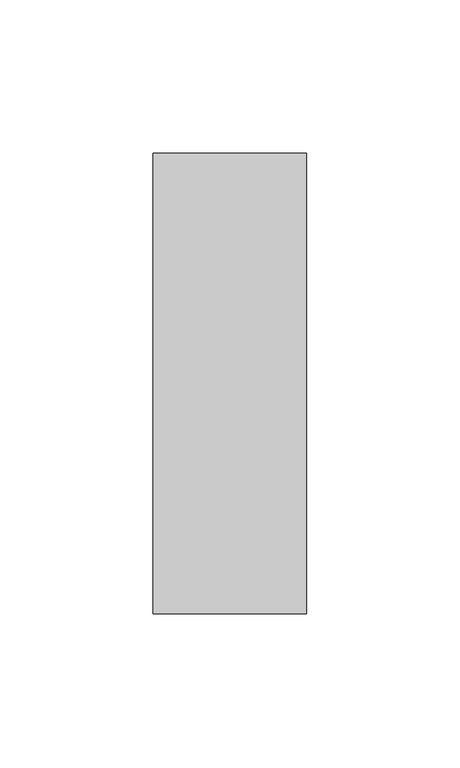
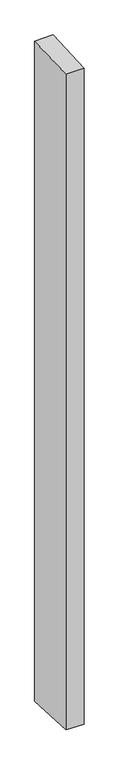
"""IFC4 building model written with IfcOpenShell, lengths in millimetres: member geometry, Прямоугольный импост : 50 x 150 мм."""

from ifc_helpers import new_model, si_unit, origin, place, context, project, spatial, faceted_brep, source, transform, mapped, element, save


def member_44c07c3a(model_context):
    return source(origin(), model_context, "Body", "Brep", [
        faceted_brep([(-25.0, 75.0, 2.2266369), (25.0, 75.0, 3.3377405), (25.0, 75.0, -1923.1516246), (-25.0, 75.0, -1921.7670143), (-25.0, -75.0, -3.3377405), (-25.0, -75.0, -1913.4719806), (25.0, -75.0, -2.2266369), (25.0, -75.0, -1914.8565909)], [[[0, 1, 2, 3]], [[4, 0, 3, 5]], [[6, 4, 5, 7]], [[1, 6, 7, 2]], [[1, 0, 4, 6]], [[2, 7, 5, 3]]]),
    ])


if __name__ == "__main__":
    model = new_model("IFC4")
    model_context = context("Model", 3, world=origin())
    ifc_project = project(units=[si_unit("LENGTHUNIT", "METRE", prefix="MILLI")], contexts=[model_context])
    site = spatial("IfcSite", under=ifc_project)
    building = spatial("IfcBuilding", under=site)
    placement = place(None, origin())
    member_shape = member_44c07c3a(model_context)
    element("IfcMember", 1, ObjectType="Прямоугольный импост : 50 x 150 мм", at=placement, inside=building, context=model_context, shape_type="MappedRepresentation", body=[
        mapped(member_shape, transform((0.0, 0.0, 0.0), x_axis=(1.0, 0.0, 0.0), y_axis=(0.0, 1.0, 0.0), z_axis=(0.0, 0.0, 1.0))),
    ])
    save(model, "model.ifc")
